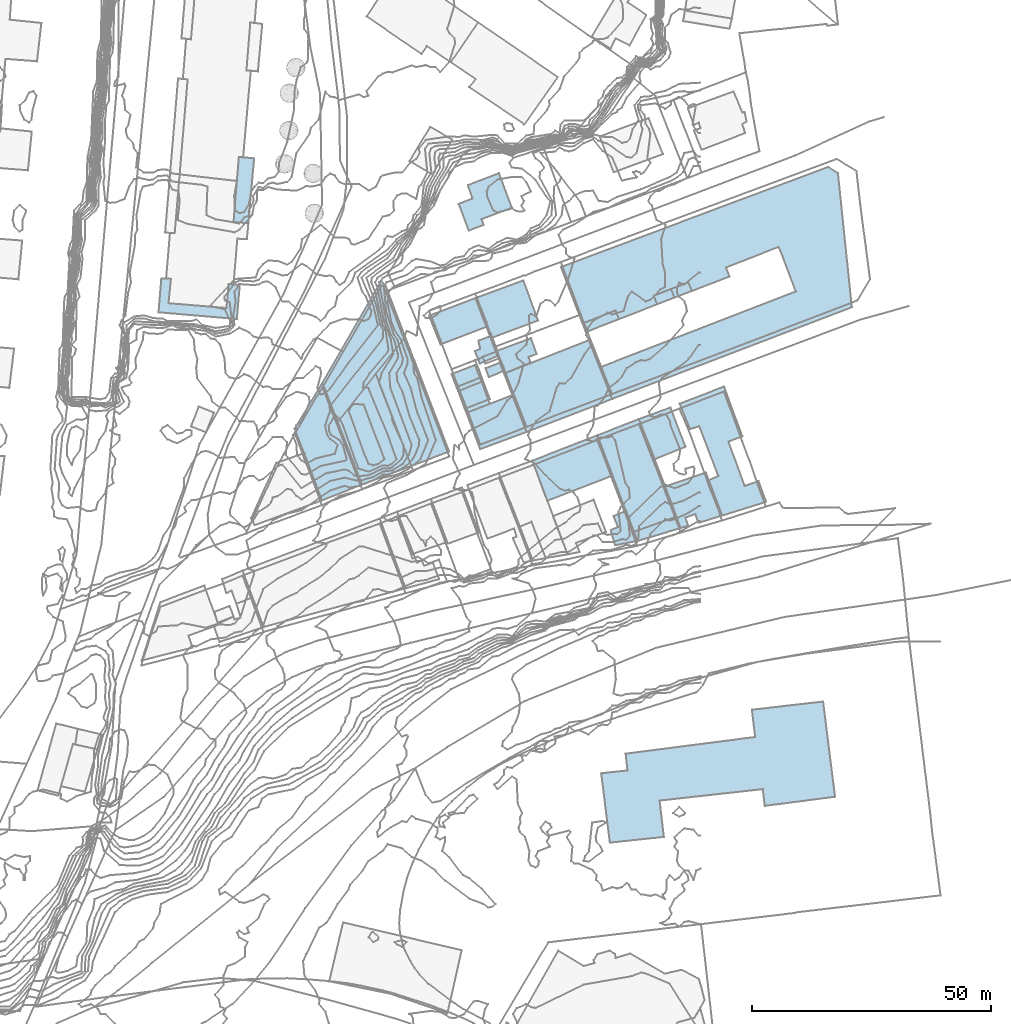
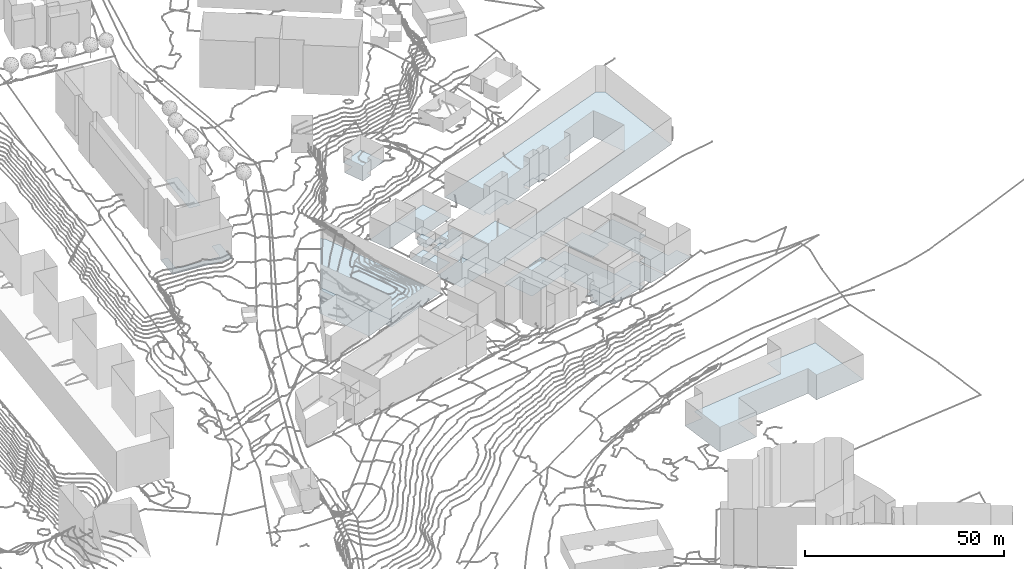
# Not in any storey, part 15 of 419: 26 footings.
"""IFC2X3 model written with IfcOpenShell, lengths in metres."""

import ifcopenshell
import ifcopenshell.guid

model = None  # the IFC model being written
_history = None  # IfcOwnerHistory: only IFC2X3 demands one
_inside = {}  # id of a spatial element -> (the spatial element, [elements in it])
_under = {}  # id of a project, library or spatial element -> (it, [spatial elements below it])
_declared = {}  # id of a project -> (the project, [libraries it declares])
_typed = {}  # id of a type object -> (the type object, [elements of that type])
_made_of = {}  # id of a material, layer set ... -> (it, [elements and type objects made of it])


def new_model(schema):
    """Start an empty IFC model of exactly this schema.

    Asked for "IFC4X3", IfcOpenShell would pick the latest addendum, in which some entities
    have other attributes; the version numbers below select the first issue.
    IFC2X3 requires an IfcOwnerHistory on every rooted entity: one is made here for all.
    """
    global model, _history
    if schema == "IFC4X3":
        model = ifcopenshell.file(schema_version=(4, 3, 0, 0))
    else:
        model = ifcopenshell.file(schema=schema)
    _inside.clear()
    _under.clear()
    _declared.clear()
    _typed.clear()
    _made_of.clear()
    _history = None
    if model.schema == "IFC2X3":
        org = make("IfcOrganization", Name="unknown")
        user = make(
            "IfcPersonAndOrganization",
            ThePerson=make("IfcPerson", FamilyName="unknown"),
            TheOrganization=org,
        )
        app = make(
            "IfcApplication",
            ApplicationDeveloper=org,
            Version="unknown",
            ApplicationFullName="unknown",
            ApplicationIdentifier="unknown",
        )
        _history = make(
            "IfcOwnerHistory",
            OwningUser=user,
            OwningApplication=app,
            ChangeAction="ADDED",
            CreationDate=0,
        )
    return model


def make(cls, **values):
    """One entity of the class cls with the attributes given. An attribute that is None is left unset."""
    return model.create_entity(
        cls, **{name: value for name, value in values.items() if value is not None}
    )


def rooted(cls, **values):
    """An entity with a GlobalId (a new one), such as an element, a storey or a relation."""
    return make(cls, GlobalId=ifcopenshell.guid.new(), OwnerHistory=_history, **values)


def si_unit(unit_type, name, prefix=None):
    """IfcSIUnit, for example si_unit("LENGTHUNIT", "METRE", prefix="MILLI")."""
    return make("IfcSIUnit", UnitType=unit_type, Prefix=prefix, Name=name)


def assignment(units):
    """IfcUnitAssignment: the units of a project."""
    return None if units is None else make("IfcUnitAssignment", Units=units)


def point(xyz):
    """IfcCartesianPoint."""
    return None if xyz is None else make("IfcCartesianPoint", Coordinates=xyz)


def direction(xyz):
    """IfcDirection."""
    return None if xyz is None else make("IfcDirection", DirectionRatios=xyz)


def frame(location, z_axis=None, x_axis=None):
    """IfcAxis2Placement3D, a coordinate frame: its origin and axes. An axis left out is left unset."""
    return make(
        "IfcAxis2Placement3D",
        Location=point(location),
        Axis=direction(z_axis),
        RefDirection=direction(x_axis),
    )


def origin_with_axes():
    """The frame at (0, 0, 0) with the z axis (0, 0, 1) and the x axis (1, 0, 0) written out."""
    return frame((0.0, 0.0, 0.0), z_axis=(0.0, 0.0, 1.0), x_axis=(1.0, 0.0, 0.0))


def place(relative_to, where):
    """IfcLocalPlacement: puts the frame where relative to a parent placement (None: the world)."""
    return make(
        "IfcLocalPlacement", PlacementRelTo=relative_to, RelativePlacement=where
    )


def context(
    kind, dimensions, precision=None, world=None, true_north=None, identifier=None
):
    """IfcGeometricRepresentationContext, for example the 3D "Model" context."""
    return make(
        "IfcGeometricRepresentationContext",
        ContextIdentifier=identifier,
        ContextType=kind,
        CoordinateSpaceDimension=dimensions,
        Precision=precision,
        WorldCoordinateSystem=world,
        TrueNorth=true_north,
    )


def subcontext(parent, identifier, kind, view, scale=None):
    """IfcGeometricRepresentationSubContext, for example "Body" below "Model"."""
    return make(
        "IfcGeometricRepresentationSubContext",
        ContextIdentifier=identifier,
        ContextType=kind,
        ParentContext=parent,
        TargetScale=scale,
        TargetView=view,
    )


def project(units=None, contexts=None):
    """IfcProject with its units and contexts."""
    return rooted(
        "IfcProject",
        Name="project",
        RepresentationContexts=contexts,
        UnitsInContext=assignment(units),
    )


def faces_of(points, faces, orient=None, outer=None):
    """IfcFace entities. A face is a list of loops; a loop is a list of indices into points, from 0.

    orient and outer hold one flag for each loop. By default every Orientation is true, the
    first loop of a face is its IfcFaceOuterBound and the others are IfcFaceBound.
    """
    made = []
    for i, loops in enumerate(faces):
        bounds = []
        for j, loop in enumerate(loops):
            is_outer = j == 0 if outer is None else outer[i][j]
            bounds.append(
                make(
                    "IfcFaceOuterBound" if is_outer else "IfcFaceBound",
                    Bound=make("IfcPolyLoop", Polygon=[points[k] for k in loop]),
                    Orientation=True if orient is None else orient[i][j],
                )
            )
        made.append(make("IfcFace", Bounds=bounds))
    return made


def faceted_brep(points, faces, orient=None, outer=None, voids=None):
    """IfcFacetedBrep: a solid bounded by flat faces; with voids (closed shells), ...WithVoids."""
    shared = [point(p) for p in points]
    hull = make("IfcClosedShell", CfsFaces=faces_of(shared, faces, orient, outer))
    if voids is None:
        return make("IfcFacetedBrep", Outer=hull)
    return make(
        "IfcFacetedBrepWithVoids",
        Outer=hull,
        Voids=[
            make(cls, CfsFaces=faces_of(shared, fs, o, b)) for cls, fs, o, b in voids
        ],
    )


def shape(context_of_items, identifier, shape_type, items):
    """IfcShapeRepresentation: the items that make up one representation, for example the "Body"."""
    return make(
        "IfcShapeRepresentation",
        ContextOfItems=context_of_items,
        RepresentationIdentifier=identifier,
        RepresentationType=shape_type,
        Items=items,
    )


def made_of(thing, what):
    """Note that an element or type object is made of a material, layer set ...; save() writes the relation."""
    if what is not None:
        _made_of.setdefault(what.id(), (what, []))[1].append(thing)
    return thing


def element(
    cls,
    number,
    at=None,
    inside=None,
    cuts=None,
    type_object=None,
    material=None,
    context=None,
    identifier="Body",
    shape_type=None,
    held_by="IfcProductDefinitionShape",
    body=None,
    shapes=None,
    **own,
):
    """One element of the class cls, such as IfcWall. Its Tag is "e" and its number.

    at: its placement. inside: the storey or other place that contains it. cuts: it is an
    opening in that element (IfcRelVoidsElement). A single representation is given by context,
    identifier, shape_type and body (its items); several are given by shapes. held_by: the class
    of the entity that holds the representations. save() writes the other relations.
    """
    e = rooted(cls, Tag="e%d" % number, ObjectPlacement=at, **own)
    if body is not None:
        shapes = [shape(context, identifier, shape_type, body)]
    if shapes is not None:
        e.Representation = make(held_by, Representations=shapes)
    if inside is not None:
        _inside.setdefault(inside.id(), (inside, []))[1].append(e)
    if cuts is not None:
        rooted(
            "IfcRelVoidsElement", RelatingBuildingElement=cuts, RelatedOpeningElement=e
        )
    if type_object is not None:
        _typed.setdefault(type_object.id(), (type_object, []))[1].append(e)
    return made_of(e, material)


def aggregate(whole, parts):
    """IfcRelAggregates: a whole, such as a stair, and the parts it consists of."""
    return rooted("IfcRelAggregates", RelatingObject=whole, RelatedObjects=parts)


def save(model, path):
    """Write the relations noted so far, then the file.

    IfcRelAggregates (storeys below a building ...), IfcRelContainedInSpatialStructure (elements
    in a storey), IfcRelDefinesByType, IfcRelAssociatesMaterial and IfcRelDeclares: one each for
    every whole, place, type object, material and project.
    """
    for whole, parts in _under.values():
        aggregate(whole, parts)
    for where, things in _inside.values():
        rooted(
            "IfcRelContainedInSpatialStructure",
            RelatedElements=things,
            RelatingStructure=where,
        )
    for kind, things in _typed.values():
        rooted("IfcRelDefinesByType", RelatedObjects=things, RelatingType=kind)
    for what, things in _made_of.values():
        rooted("IfcRelAssociatesMaterial", RelatedObjects=things, RelatingMaterial=what)
    for by, libraries in _declared.values():
        rooted("IfcRelDeclares", RelatingContext=by, RelatedDefinitions=libraries)
    model.write(path)


model = new_model("IFC2X3")

# Units and contexts
model_context = context("Model", 3, precision=1e-05, world=origin_with_axes())
body_context = subcontext(model_context, "Body", "Model", "MODEL_VIEW")
ifc_project = project(units=[si_unit("AREAUNIT", "SQUARE_METRE"), si_unit("LENGTHUNIT", "METRE")], contexts=[model_context])

# Footings
footing_1_placement = place(None, frame((919.7920204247, 707.8976909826, 81.4396011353), z_axis=(0.0, 0.0, 1.0), x_axis=(1.0, 0.0, 0.0)))
element("IfcFooting", 1, at=footing_1_placement, Name="Sol 0", PredefinedType="STRIP_FOOTING", context=body_context, shape_type="Brep", body=[
    faceted_brep([(0.0, 0.0, 0.0), (9.7000000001, 3.7000000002, 0.0), (12.0, -2.2999999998, 0.0), (2.4, -6.0, 0.0)], [[[0, 1, 2]], [[2, 3, 0]]]),
])
footing_2_placement = place(None, frame((957.7920204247, 663.0976909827, 76.6620004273), z_axis=(0.0, 0.0, 1.0), x_axis=(1.0, 0.0, 0.0)))
element("IfcFooting", 2, at=footing_2_placement, Name="Sol 0", PredefinedType="STRIP_FOOTING", context=body_context, shape_type="Brep", body=[
    faceted_brep([(3.2000000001, 4.0, 0.0), (5.6000000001, -2.2999999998, 0.0), (0.9, -3.2000000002, 0.0), (1.5, 0.5999999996, 0.0), (0.6000000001, 2.8999999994, 0.0), (0.0, 0.0, 0.0)], [[[0, 1, 2]], [[3, 4, 0]], [[2, 5, 3]], [[3, 0, 2]]]),
])
footing_3_placement = place(None, frame((891.6920204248, 684.2976909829, 83.1860015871), z_axis=(0.0, 0.0, 1.0), x_axis=(1.0, 0.0, 0.0)))
element("IfcFooting", 3, at=footing_3_placement, Name="Sol 0", PredefinedType="STRIP_FOOTING", context=body_context, shape_type="Brep", body=[
    faceted_brep([(14.1, -11.7000000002, 0.0), (5.7000000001, -15.0, 0.0), (0.0, 0.0, 0.0), (5.8, 9.5999999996, 0.0)], [[[0, 1, 2]], [[2, 3, 0]]]),
])
footing_4_placement = place(None, frame((924.4920204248, 695.6976909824, 81.3057990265), z_axis=(0.0, 0.0, 1.0), x_axis=(1.0, 0.0, 0.0)))
element("IfcFooting", 4, at=footing_4_placement, Name="Sol 0", PredefinedType="STRIP_FOOTING", context=body_context, shape_type="Brep", body=[
    faceted_brep([(6.2999999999, -1.5999999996, 0.0), (1.4, -3.5999999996, 0.0), (0.0, 0.0, 0.0), (4.9, 1.9000000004, 0.0)], [[[0, 1, 2]], [[2, 3, 0]]]),
])
footing_5_placement = place(None, frame((933.7920204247, 700.4976909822, 80.5634998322), z_axis=(0.0, 0.0, 1.0), x_axis=(1.0, 0.0, 0.0)))
element("IfcFooting", 5, at=footing_5_placement, Name="Sol 0", PredefinedType="STRIP_FOOTING", context=body_context, shape_type="Brep", body=[
    faceted_brep([(0.0, 0.0, 0.0), (7.3, 2.7000000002, 0.0), (8.5, -0.5999999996, 0.0), (7.2000000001, -2.3999999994, 0.0), (1.7000000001, -4.6999999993, 0.0), (6.8, -1.1999999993, 0.0)], [[[0, 1, 2]], [[3, 4, 0]], [[0, 2, 5]], [[5, 3, 0]]]),
])
footing_6_placement = place(None, frame((947.3920204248, 718.0976909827, 78.6544979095), z_axis=(0.0, 0.0, 1.0), x_axis=(1.0, 0.0, 0.0)))
element("IfcFooting", 6, at=footing_6_placement, Name="Sol 0", PredefinedType="STRIP_FOOTING", context=body_context, shape_type="Brep", body=[
    faceted_brep([(4.5, -11.7999999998, 0.0), (0.0, 0.0, 0.0), (55.7999999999, 20.8999999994, 0.0), (20.1, -7.7999999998, 0.0), (12.1, -10.9000000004, 0.0), (11.3999999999, -9.1000000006, 0.0), (35.2, -2.0, 0.0), (27.3999999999, -5.0, 0.0), (26.6, -3.2000000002, 0.0), (10.7, -27.6000000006, 0.0), (8.1, -21.0, 0.0), (49.1, -5.1000000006, 0.0), (57.8999999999, 19.5999999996, 0.0), (60.7999999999, -8.4000000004, 0.0), (19.3999999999, -6.0, 0.0), (34.5, -0.1000000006, 0.0), (46.2999999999, 2.2999999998, 0.0), (45.5, 4.2000000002, 0.0)], [[[0, 1, 2]], [[3, 4, 5]], [[6, 7, 8]], [[9, 10, 11]], [[2, 12, 13]], [[5, 0, 2]], [[14, 3, 5]], [[15, 6, 8]], [[13, 9, 11]], [[14, 5, 2]], [[15, 8, 14]], [[13, 11, 16]], [[15, 14, 2]], [[13, 16, 17]], [[17, 15, 2]], [[2, 13, 17]]]),
])
footing_7_placement = place(None, frame((963.6920204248, 686.2976909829, 77.7188002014), z_axis=(0.0, 0.0, 1.0), x_axis=(1.0, 0.0, 0.0)))
element("IfcFooting", 7, at=footing_7_placement, Name="Sol 0", PredefinedType="STRIP_FOOTING", context=body_context, shape_type="Brep", body=[
    faceted_brep([(0.0, 0.0, 0.0), (6.6, 2.3999999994, 0.0), (9.7000000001, -5.8000000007, 0.0), (3.3, -8.4000000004, 0.0)], [[[0, 1, 2]], [[2, 3, 0]]]),
])
footing_8_placement = place(None, frame((970.3920204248, 713.4976909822, 78.7406013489), z_axis=(0.0, 0.0, 1.0), x_axis=(1.0, 0.0, 0.0)))
element("IfcFooting", 8, at=footing_8_placement, Name="Sol 0", PredefinedType="STRIP_FOOTING", context=body_context, shape_type="Brep", body=[
    faceted_brep([(0.7, -1.7999999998, 0.0), (0.0, 0.0, 0.0), (3.6, 1.4000000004, 0.0), (4.3999999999, -0.3999999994, 0.0)], [[[0, 1, 2]], [[2, 3, 0]]]),
])
footing_9_placement = place(None, frame((929.3920204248, 700.4976909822, 81.3559997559), z_axis=(0.0, 0.0, 1.0), x_axis=(1.0, 0.0, 0.0)))
element("IfcFooting", 9, at=footing_9_placement, Name="Sol 0", PredefinedType="STRIP_FOOTING", context=body_context, shape_type="Brep", body=[
    faceted_brep([(3.1, 3.1000000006, 0.0), (3.2999999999, 2.7000000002, 0.0), (4.7, -1.0, 0.0), (1.1, 0.5, 0.0), (0.7, 2.2000000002, 0.0), (1.0, -2.5999999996, 0.0), (0.0, 0.0, 0.0)], [[[0, 1, 2]], [[3, 4, 0]], [[5, 6, 3]], [[0, 2, 5]], [[5, 3, 0]]]),
])
footing_10_placement = place(None, frame((966.7920204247, 712.0976909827, 79.3546003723), z_axis=(0.0, 0.0, 1.0), x_axis=(1.0, 0.0, 0.0)))
element("IfcFooting", 10, at=footing_10_placement, Name="Sol 0", PredefinedType="STRIP_FOOTING", context=body_context, shape_type="Brep", body=[
    faceted_brep([(0.7000000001, -1.7999999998, 0.0), (0.0, 0.0, 0.0), (3.6000000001, 1.3999999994, 0.0), (4.3, -0.4000000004, 0.0)], [[[0, 1, 2]], [[2, 3, 0]]]),
])
footing_11_placement = place(None, frame((931.5920204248, 696.8976909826, 81.344001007), z_axis=(0.0, 0.0, 1.0), x_axis=(1.0, 0.0, 0.0)))
element("IfcFooting", 11, at=footing_11_placement, Name="Sol 0", PredefinedType="STRIP_FOOTING", context=body_context, shape_type="Brep", body=[
    faceted_brep([(3.0, 1.2000000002, 0.0), (3.7, -0.5999999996, 0.0), (0.7, -1.7999999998, 0.0), (0.0, 0.0, 0.0)], [[[0, 1, 2]], [[2, 3, 0]]]),
])
footing_12_placement = place(None, frame((863.1920204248, 708.5976909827, 90.2260009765), z_axis=(0.0, 0.0, 1.0), x_axis=(1.0, 0.0, 0.0)))
element("IfcFooting", 12, at=footing_12_placement, Name="Sol 0", PredefinedType="STRIP_FOOTING", context=body_context, shape_type="Brep", body=[
    faceted_brep([(0.6, 7.0999999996, 0.0), (1.6, 7.0999999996, 0.0), (2.6, 7.0, 0.0), (14.7000000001, 5.8999999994, 0.0), (17.0, 5.7000000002, 0.0), (16.4, -1.4000000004, 0.0), (2.1, 1.8999999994, 0.0), (14.2000000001, 0.8999999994, 0.0), (0.0, 0.0, 0.0)], [[[0, 1, 2]], [[3, 4, 5]], [[0, 2, 6]], [[7, 3, 5]], [[8, 0, 6]], [[7, 5, 8]], [[8, 6, 7]]]),
])
footing_13_placement = place(None, frame((951.8920204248, 706.2976909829, 79.7466007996), z_axis=(0.0, 0.0, 1.0), x_axis=(1.0, 0.0, 0.0)))
element("IfcFooting", 13, at=footing_13_placement, Name="Sol 0", PredefinedType="STRIP_FOOTING", context=body_context, shape_type="Brep", body=[
    faceted_brep([(0.7, -1.8000000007, 0.0), (0.0, 0.0, 0.0), (6.8999999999, 2.6999999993, 0.0), (7.6, 0.8999999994, 0.0)], [[[0, 1, 2]], [[2, 3, 0]]]),
])
footing_14_placement = place(None, frame((962.5920204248, 662.6976909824, 74.9748030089), z_axis=(0.0, 0.0, 1.0), x_axis=(1.0, 0.0, 0.0)))
element("IfcFooting", 14, at=footing_14_placement, Name="Sol 0", PredefinedType="STRIP_FOOTING", context=body_context, shape_type="Brep", body=[
    faceted_brep([(0.0, 0.0, 0.0), (8.9, 3.2000000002, 0.0), (9.8, 0.7999999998, 0.0), (0.8, -1.8999999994, 0.0)], [[[0, 1, 2]], [[2, 3, 0]]]),
])
footing_15_placement = place(None, frame((954.9920204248, 682.8976909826, 75.8620010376), z_axis=(0.0, 0.0, 1.0), x_axis=(1.0, 0.0, 0.0)))
element("IfcFooting", 15, at=footing_15_placement, Name="Sol 0", PredefinedType="STRIP_FOOTING", context=body_context, shape_type="Brep", body=[
    faceted_brep([(8.7, 3.4000000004, 0.0), (14.2, -10.7000000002, 0.0), (16.5, -17.0, 0.0), (7.6, -20.2000000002, 0.0), (0.0, 0.0, 0.0)], [[[0, 1, 2]], [[3, 4, 0]], [[0, 2, 3]]]),
])
footing_16_placement = place(None, frame((925.9920204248, 731.2976909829, 85.7525016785), z_axis=(0.0, 0.0, 1.0), x_axis=(1.0, 0.0, 0.0)))
element("IfcFooting", 16, at=footing_16_placement, Name="Sol 0", PredefinedType="STRIP_FOOTING", context=body_context, shape_type="Brep", body=[
    faceted_brep([(2.9, 1.0999999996, 0.0), (1.9, 3.8999999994, 0.0), (8.4, 6.3999999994, 0.0), (2.1, -5.6000000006, 0.0), (0.0, 0.0, 0.0), (4.7999999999, -3.2000000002, 0.0), (5.2, -4.4000000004, 0.0), (11.1, -0.8000000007, 0.0)], [[[0, 1, 2]], [[3, 4, 0]], [[5, 6, 3]], [[2, 7, 5]], [[3, 0, 2]], [[2, 5, 3]]]),
])
footing_17_placement = place(None, frame((935.4920204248, 695.7976909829, 78.6544979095), z_axis=(0.0, 0.0, 1.0), x_axis=(1.0, 0.0, 0.0)))
element("IfcFooting", 17, at=footing_17_placement, Name="Sol 0", PredefinedType="STRIP_FOOTING", context=body_context, shape_type="Brep", body=[
    faceted_brep([(0.0, 0.0, 0.0), (17.7, 7.0, 0.0), (22.6, -5.3000000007, 0.0), (4.7, -12.2000000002, 0.0)], [[[0, 1, 2]], [[2, 3, 0]]]),
])
footing_18_placement = place(None, frame((955.7920204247, 612.1976909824, 70.0599998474), z_axis=(0.0, 0.0, 1.0), x_axis=(1.0, 0.0, 0.0)))
element("IfcFooting", 18, at=footing_18_placement, Name="Sol 0", PredefinedType="STRIP_FOOTING", context=body_context, shape_type="Brep", body=[
    faceted_brep([(48.9, -4.8999999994, 0.0), (38.1000000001, -6.2999999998, 0.0), (34.2000000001, -6.7999999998, 0.0), (31.5, 13.2999999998, 0.0), (46.4, 15.0, 0.0), (5.5, 0.6000000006, 0.0), (5.1000000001, 4.1000000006, 0.0), (32.2000000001, 7.6000000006, 0.0), (1.8, -14.5, 0.0), (0.0, 0.0, 0.0), (12.2000000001, -5.7000000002, 0.0), (13.1000000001, -13.2999999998, 0.0), (33.8, -3.2999999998, 0.0)], [[[0, 1, 2]], [[3, 4, 0]], [[5, 6, 7]], [[8, 9, 5]], [[10, 11, 8]], [[0, 2, 12]], [[7, 3, 0]], [[10, 8, 5]], [[7, 0, 12]], [[10, 5, 7]], [[7, 12, 10]]]),
])
footing_19_placement = place(None, frame((941.3920204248, 677.5976909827, 78.9970001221), z_axis=(0.0, 0.0, 1.0), x_axis=(1.0, 0.0, 0.0)))
element("IfcFooting", 19, at=footing_19_placement, Name="Sol 0", PredefinedType="STRIP_FOOTING", context=body_context, shape_type="Brep", body=[
    faceted_brep([(0.0, 0.0, 0.0), (13.6, 5.2999999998, 0.0), (16.7999999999, -3.1000000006, 0.0), (3.1, -8.4000000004, 0.0)], [[[0, 1, 2]], [[2, 3, 0]]]),
])
footing_20_placement = place(None, frame((878.8920204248, 727.4976909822, 93.5763989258), z_axis=(0.0, 0.0, 1.0), x_axis=(1.0, 0.0, 0.0)))
element("IfcFooting", 20, at=footing_20_placement, Name="Sol 0", PredefinedType="STRIP_FOOTING", context=body_context, shape_type="Brep", body=[
    faceted_brep([(4.2999999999, 13.3000000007, 0.0), (3.1, -0.2999999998, 0.0), (0.0, 0.0, 0.0), (1.1, 13.6000000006, 0.0)], [[[0, 1, 2]], [[2, 3, 0]]]),
])
footing_21_placement = place(None, frame((969.1920204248, 672.1976909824, 74.7240036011), z_axis=(0.0, 0.0, 1.0), x_axis=(1.0, 0.0, 0.0)))
element("IfcFooting", 21, at=footing_21_placement, Name="Sol 0", PredefinedType="STRIP_FOOTING", context=body_context, shape_type="Brep", body=[
    faceted_brep([(8.5, 2.9000000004, 0.0), (11.9, -6.0999999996, 0.0), (6.9, -7.5999999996, 0.0), (4.8, -8.2000000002, 0.0), (3.2000000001, -8.7000000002, 0.0), (0.0, 0.0, 0.0), (6.3, -5.7999999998, 0.0), (4.2000000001, -6.5, 0.0)], [[[0, 1, 2]], [[3, 4, 5]], [[0, 2, 6]], [[7, 3, 5]], [[0, 6, 7]], [[7, 5, 0]]]),
])
footing_22_placement = place(None, frame((972.1920204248, 689.4976909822, 75.197001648), z_axis=(0.0, 0.0, 1.0), x_axis=(1.0, 0.0, 0.0)))
element("IfcFooting", 22, at=footing_22_placement, Name="Sol 0", PredefinedType="STRIP_FOOTING", context=body_context, shape_type="Brep", body=[
    faceted_brep([(0.0, 0.0, 0.0), (9.3, 3.6000000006, 0.0), (13.1, -6.7999999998, 0.0), (4.1, -4.6999999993, 0.0), (2.2000000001, -5.2999999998, 0.0), (8.9, -23.3999999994, 0.0), (6.1, -16.0, 0.0), (8.1, -15.0999999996, 0.0), (16.5, -16.1999999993, 0.0), (18.1, -20.5, 0.0), (10.2000000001, -7.8999999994, 0.0), (13.6, -17.1999999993, 0.0)], [[[0, 1, 2]], [[3, 4, 0]], [[5, 6, 7]], [[8, 9, 5]], [[0, 2, 10]], [[11, 8, 5]], [[3, 0, 10]], [[11, 5, 7]], [[3, 10, 11]], [[11, 7, 3]]]),
])
footing_23_placement = place(None, frame((897.4920204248, 693.8976909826, 81.0530003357), z_axis=(0.0, 0.0, 1.0), x_axis=(1.0, 0.0, 0.0)))
element("IfcFooting", 23, at=footing_23_placement, Name="Sol 0", PredefinedType="STRIP_FOOTING", context=body_context, shape_type="Brep", body=[
    faceted_brep([(26.5, -14.4000000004, 0.0), (8.2999999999, -21.2999999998, 0.0), (0.0, 0.0, 0.0), (12.2999999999, 21.2999999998, 0.0), (13.2999999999, 20.0999999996, 0.0)], [[[0, 1, 2]], [[3, 4, 0]], [[0, 2, 3]]]),
])
footing_24_placement = place(None, frame((925.8920204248, 692.0976909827, 81.242002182), z_axis=(0.0, 0.0, 1.0), x_axis=(1.0, 0.0, 0.0)))
element("IfcFooting", 24, at=footing_24_placement, Name="Sol 0", PredefinedType="STRIP_FOOTING", context=body_context, shape_type="Brep", body=[
    faceted_brep([(6.6, -2.6000000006, 0.0), (1.7, -4.5, 0.0), (0.0, 0.0, 0.0), (4.8999999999, 2.0, 0.0)], [[[0, 1, 2]], [[2, 3, 0]]]),
])
footing_25_placement = place(None, frame((927.5920204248, 687.5976909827, 79.9844006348), z_axis=(0.0, 0.0, 1.0), x_axis=(1.0, 0.0, 0.0)))
element("IfcFooting", 25, at=footing_25_placement, Name="Sol 0", PredefinedType="STRIP_FOOTING", context=body_context, shape_type="Brep", body=[
    faceted_brep([(9.6, 3.7000000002, 0.0), (12.6, -4.0, 0.0), (2.9, -7.6000000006, 0.0), (0.0, 0.0, 0.0)], [[[0, 1, 2]], [[2, 3, 0]]]),
])
footing_26_placement = place(None, frame((929.4920204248, 711.5976909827, 80.8450012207), z_axis=(0.0, 0.0, 1.0), x_axis=(1.0, 0.0, 0.0)))
element("IfcFooting", 26, at=footing_26_placement, Name="Sol 0", PredefinedType="STRIP_FOOTING", context=body_context, shape_type="Brep", body=[
    faceted_brep([(0.0, 0.0, 0.0), (10.0, 3.7000000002, 0.0), (13.1, -4.7000000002, 0.0), (3.2, -8.4000000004, 0.0)], [[[0, 1, 2]], [[2, 3, 0]]]),
])

save(model, "model.ifc")
